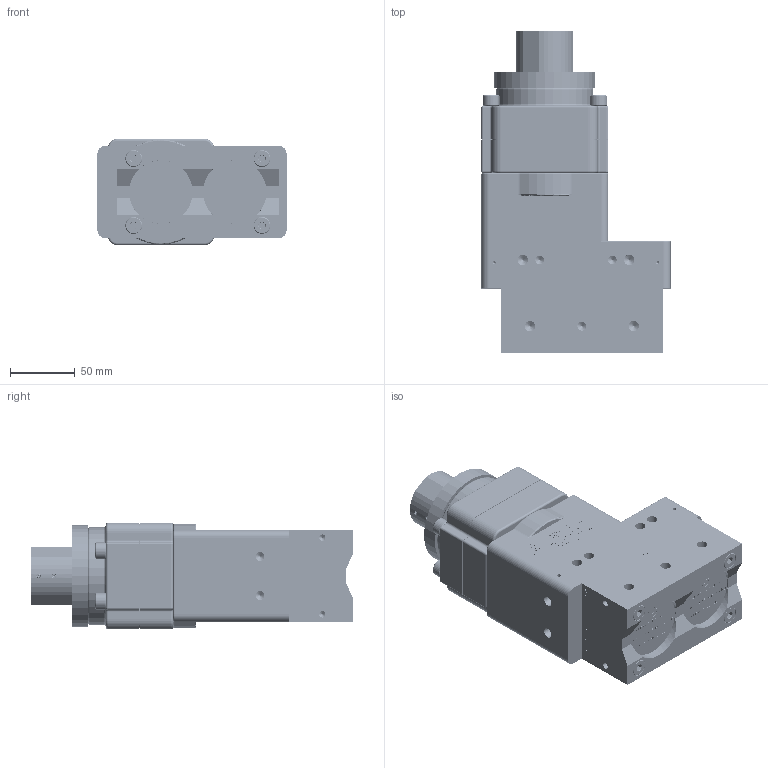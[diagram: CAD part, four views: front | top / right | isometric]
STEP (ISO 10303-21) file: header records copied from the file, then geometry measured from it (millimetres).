
FILE_DESCRIPTION (( 'STEP AP203' ), '1' );
FILE_NAME ('81401734_CFM.STEP', '2026-02-19T22:37:45', ( '' ), ( '' ), 'SwSTEP 2.0', 'SolidWorks 2024', '' );
FILE_SCHEMA (( 'CONFIG_CONTROL_DESIGN' ));
Products named in the file (1): 81401734_CFM
Bounding box: 146 x 249 x 82 mm (x, y, z)
Volume: 1667032.2 mm3; surface area: 285803.9 mm2
Topology: 42 solids, 60 shells, 5443 faces, 14358 edges, 9331 vertices
Faces by surface type: plane 2037, cylinder 1648, bspline 1314, cone 376, torus 58, sphere 10
Entity records: 259878 total; most frequent: CARTESIAN_POINT 140492, ORIENTED_EDGE 28490, DIRECTION 19029, EDGE_CURVE 14245, VERTEX_POINT 9328, VECTOR 7665, LINE 7665, EDGE_LOOP 5933
